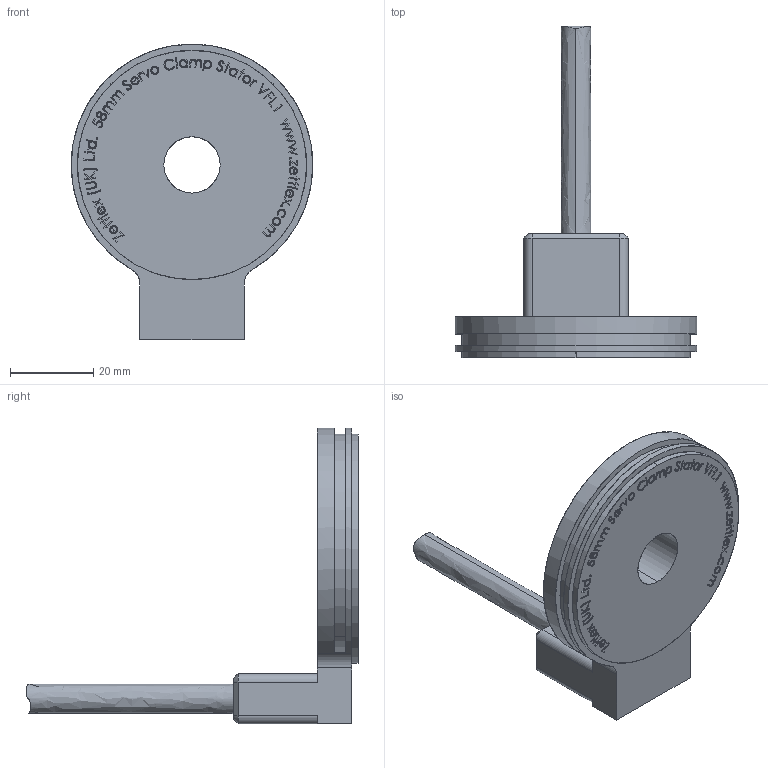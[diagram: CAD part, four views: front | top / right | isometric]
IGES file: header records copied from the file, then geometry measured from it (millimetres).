
Start section: SolidWorks IGES file using analytic representation for surfaces
Global section: file name: C:\Zettlex Data\Mechanical Drawings\1615\58mm Servo Clamp Stator VFL1 Rev 1-0.IGS; native system: SolidWorks 2015; preprocessor: SolidWorks 2015; author: Nigel; date: 150908.085910; units: millimetre
Bounding box: 58 x 79.7 x 71 mm (x, y, z)
Surface area: 11072.1 mm2 (no closed solid volume)
Topology: 0 solids, 0 shells, 721 faces, 8430 edges, 8430 vertices
Faces by surface type: bspline 691, revolution 30
